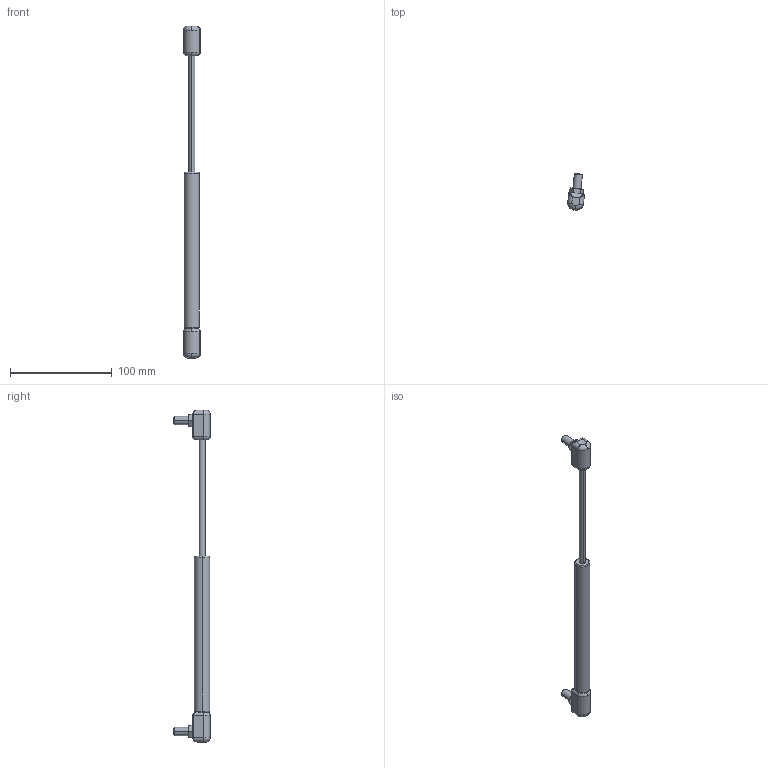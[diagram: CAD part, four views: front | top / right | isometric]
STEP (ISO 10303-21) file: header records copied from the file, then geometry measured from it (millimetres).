
FILE_DESCRIPTION (( 'STEP AP214' ), '1' );
FILE_NAME ('2.8003 6_15 120mm 150N.STEP', '2024-06-27T11:36:19', ( '' ), ( '' ), 'SwSTEP 2.0', 'SolidWorks 2024', '' );
FILE_SCHEMA (( 'AUTOMOTIVE_DESIGN' ));
Length unit declared in the file: millimetre
Products named in the file (4): Päätykiinnike M6; 2.8003 6_15 120mm 150N; 6_15 120mm Mäntä; 6_15 120mm Runko
Assembly tree (4 placements, depth 2):
  2.8003 6_15 120mm 150N
    6_15 120mm Runko
    6_15 120mm Mäntä
    Päätykiinnike M6  x2
Bounding box: 16.34 x 35.67 x 325.6 mm (x, y, z)
Volume: 42817.7 mm3; surface area: 18023.9 mm2
Topology: 4 solids, 4 shells, 110 faces, 244 edges, 136 vertices
Faces by surface type: cylinder 46, plane 34, torus 12, cone 10, bspline 8
Entity records: 2247 total; most frequent: CARTESIAN_POINT 571, DIRECTION 298, ORIENTED_EDGE 268, EDGE_CURVE 134, AXIS2_PLACEMENT_3D 118, VERTEX_POINT 79, EDGE_LOOP 69, FACE_OUTER_BOUND 65
